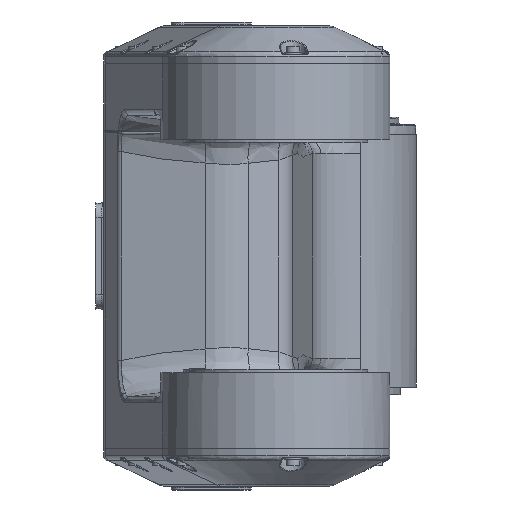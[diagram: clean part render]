
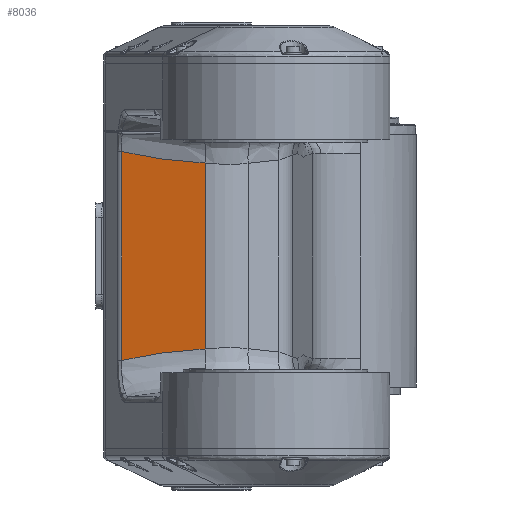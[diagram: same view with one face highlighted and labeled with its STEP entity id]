
A CAD part, front view. The second image highlights one B-rep face of the part: STEP entity #8036.
In plain terms, the highlighted planar face has unit normal (-0.208, -0.978, 0) as drawn and (-0.208, 0, 0.978) by its records, which use the part's own axes.
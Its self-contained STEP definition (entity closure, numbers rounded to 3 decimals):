
#1679 = CARTESIAN_POINT ( 'NONE',  ( -41.408, 50.316, 623.841 ) ) ;
#2546 = CARTESIAN_POINT ( 'NONE',  ( -23.469, -48.263, 627.654 ) ) ;
#2564 = LINE ( 'NONE', #19414, #32553 ) ;
#2912 = VERTEX_POINT ( 'NONE', #16228 ) ;
#2943 = PLANE ( 'NONE',  #33929 ) ;
#3694 = DIRECTION ( 'NONE',  ( 0., -1., 0. ) ) ;
#3781 = VERTEX_POINT ( 'NONE', #34544 ) ;
#3864 = FACE_OUTER_BOUND ( 'NONE', #30234, .T. ) ;
#5901 = CARTESIAN_POINT ( 'NONE',  ( -58.27, 53.579, 620.256 ) ) ;
#8036 = ADVANCED_FACE ( 'NONE', ( #3864 ), #2943, .T. ) ;
#10018 = CARTESIAN_POINT ( 'NONE',  ( -44.976, -50.873, 623.082 ) ) ;
#10574 = ORIENTED_EDGE ( 'NONE', *, *, #38615, .F. ) ;
#11023 = ORIENTED_EDGE ( 'NONE', *, *, #42689, .T. ) ;
#12902 = CARTESIAN_POINT ( 'NONE',  ( -59.152, 53.791, 620.069 ) ) ;
#15751 = ORIENTED_EDGE ( 'NONE', *, *, #35557, .F. ) ;
#15958 = CARTESIAN_POINT ( 'NONE',  ( -16.237, 47.854, 629.191 ) ) ;
#16228 = CARTESIAN_POINT ( 'NONE',  ( -59.152, 53.791, 620.069 ) ) ;
#16414 = CARTESIAN_POINT ( 'NONE',  ( -55.621, 52.965, 620.819 ) ) ;
#16579 = CARTESIAN_POINT ( 'NONE',  ( -16.237, -47.854, 629.191 ) ) ;
#17057 = CARTESIAN_POINT ( 'NONE',  ( -59.152, 0., 620.069 ) ) ;
#17223 = DIRECTION ( 'NONE',  ( -0.208, 0., 0.978 ) ) ;
#17591 = B_SPLINE_CURVE_WITH_KNOTS ( 'NONE', 3,
 ( #12902, #5901, #30412, #16414, #37195, #20140, #33691, #1679, #30868, #23406, #15958 ),
 .UNSPECIFIED., .F., .F.,
 ( 4, 2, 1, 2, 2, 4 ),
 ( 0.002, 0.005, 0.008, 0.013, 0.024, 0.046 ),
 .UNSPECIFIED. ) ;
#17743 = CARTESIAN_POINT ( 'NONE',  ( -59.152, -53.791, 620.069 ) ) ;
#19414 = CARTESIAN_POINT ( 'NONE',  ( -16.237, 0., 629.191 ) ) ;
#20079 = CARTESIAN_POINT ( 'NONE',  ( -58.27, -53.579, 620.256 ) ) ;
#20140 = CARTESIAN_POINT ( 'NONE',  ( -50.307, 51.853, 621.949 ) ) ;
#20720 = B_SPLINE_CURVE_WITH_KNOTS ( 'NONE', 3,
 ( #37829, #20079, #34555, #28015, #34791, #34324, #10018, #45771, #27554, #2546, #16579 ),
 .UNSPECIFIED., .F., .F.,
 ( 4, 2, 1, 2, 2, 4 ),
 ( 0.002, 0.005, 0.008, 0.013, 0.024, 0.046 ),
 .UNSPECIFIED. ) ;
#23360 = DIRECTION ( 'NONE',  ( 0., -1., 0. ) ) ;
#23406 = CARTESIAN_POINT ( 'NONE',  ( -23.469, 48.263, 627.654 ) ) ;
#23585 = LINE ( 'NONE', #17057, #38350 ) ;
#24672 = DIRECTION ( 'NONE',  ( -0.978, 0., -0.208 ) ) ;
#25136 = CARTESIAN_POINT ( 'NONE',  ( -16.237, 0., 629.191 ) ) ;
#25510 = CARTESIAN_POINT ( 'NONE',  ( -16.237, -47.854, 629.191 ) ) ;
#26002 = ORIENTED_EDGE ( 'NONE', *, *, #42573, .T. ) ;
#27554 = CARTESIAN_POINT ( 'NONE',  ( -30.671, -48.89, 626.123 ) ) ;
#28015 = CARTESIAN_POINT ( 'NONE',  ( -55.621, -52.965, 620.819 ) ) ;
#30177 = VERTEX_POINT ( 'NONE', #25510 ) ;
#30234 = EDGE_LOOP ( 'NONE', ( #15751, #10574, #11023, #26002 ) ) ;
#30412 = CARTESIAN_POINT ( 'NONE',  ( -57.388, 53.368, 620.444 ) ) ;
#30868 = CARTESIAN_POINT ( 'NONE',  ( -30.671, 48.89, 626.123 ) ) ;
#32553 = VECTOR ( 'NONE', #23360, 1000. ) ;
#33691 = CARTESIAN_POINT ( 'NONE',  ( -44.976, 50.873, 623.082 ) ) ;
#33929 = AXIS2_PLACEMENT_3D ( 'NONE', #25136, #17223, #24672 ) ;
#34324 = CARTESIAN_POINT ( 'NONE',  ( -50.307, -51.853, 621.949 ) ) ;
#34544 = CARTESIAN_POINT ( 'NONE',  ( -16.237, 47.854, 629.191 ) ) ;
#34555 = CARTESIAN_POINT ( 'NONE',  ( -57.388, -53.368, 620.444 ) ) ;
#34791 = CARTESIAN_POINT ( 'NONE',  ( -52.968, -52.38, 621.383 ) ) ;
#35557 = EDGE_CURVE ( 'NONE', #3781, #30177, #2564, .T. ) ;
#37195 = CARTESIAN_POINT ( 'NONE',  ( -52.968, 52.38, 621.383 ) ) ;
#37829 = CARTESIAN_POINT ( 'NONE',  ( -59.152, -53.791, 620.069 ) ) ;
#38350 = VECTOR ( 'NONE', #3694, 1000. ) ;
#38615 = EDGE_CURVE ( 'NONE', #2912, #3781, #17591, .T. ) ;
#42573 = EDGE_CURVE ( 'NONE', #44445, #30177, #20720, .T. ) ;
#42689 = EDGE_CURVE ( 'NONE', #2912, #44445, #23585, .T. ) ;
#44445 = VERTEX_POINT ( 'NONE', #17743 ) ;
#45771 = CARTESIAN_POINT ( 'NONE',  ( -41.408, -50.316, 623.841 ) ) ;
